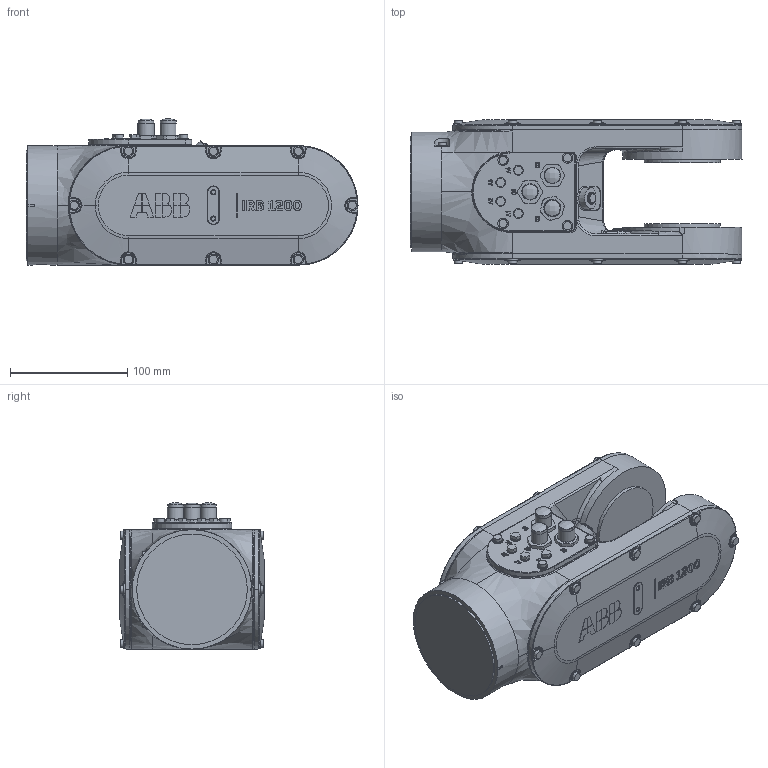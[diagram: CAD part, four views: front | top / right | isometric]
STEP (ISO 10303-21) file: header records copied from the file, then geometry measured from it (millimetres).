
FILE_DESCRIPTION (( 'STEP AP203' ), '1' );
FILE_NAME ('IRB1200GEN2_7kg-710_BTM_OC_00_Link04_CAD.STEP', '2025-06-16T03:00:34', ( '' ), ( '' ), 'SwSTEP 2.0', 'SolidWorks 2022', '' );
FILE_SCHEMA (( 'CONFIG_CONTROL_DESIGN' ));
Products named in the file (1): IRB1200GEN2_7kg-710_BTM_OC_00_Link04_CAD
Bounding box: 283.5 x 124 x 124.84 mm (x, y, z)
Volume: 2502242.3 mm3; surface area: 154592.5 mm2
Topology: 41 solids, 41 shells, 1425 faces, 3455 edges, 2187 vertices
Faces by surface type: plane 618, bspline 503, cylinder 192, torus 62, cone 50
Full cylindrical faces by diameter (mm): 3.3 x4, 7 x22, 9 x22, 9.9 x3, 13 x1, 13.5 x3, 14 x3, 65 x2, 94.5 x1, 101.999 x1, 102 x1
Entity records: 77584 total; most frequent: CARTESIAN_POINT 48575, ORIENTED_EDGE 6616, DIRECTION 4653, EDGE_CURVE 3308, VERTEX_POINT 2129, EDGE_LOOP 1609, AXIS2_PLACEMENT_3D 1554, LINE 1545
